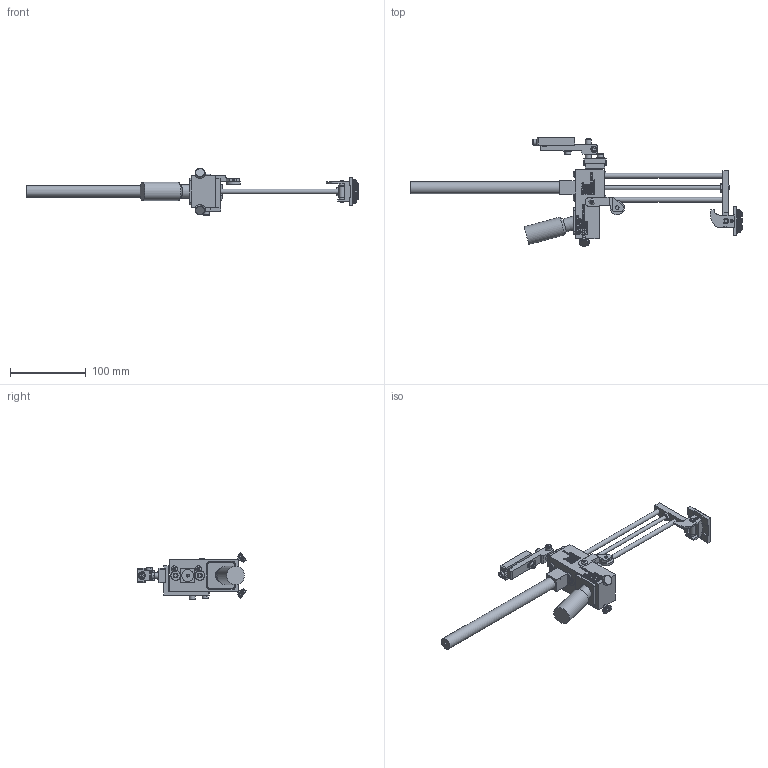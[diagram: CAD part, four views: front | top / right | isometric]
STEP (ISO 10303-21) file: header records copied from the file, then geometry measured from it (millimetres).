
FILE_DESCRIPTION((''),'2;1');
FILE_NAME('C:\Documents and Settings\Ron\My Documents\Inventor\Sprinter Drawing\Machines in Inventor\Model 1010\Type\Ext Str\E4\Brkt\Ext\Model 1010 ES 4 ext w brkt.stp','2009-01-27T12:18:42',('Ron'),(''),'Autodesk Inventor 2008','Autodesk Inventor 2008','');
FILE_SCHEMA(('AUTOMOTIVE_DESIGN { 1 0 10303 214 1 1 1 1 }'));
Length unit declared in the file: inch
Products named in the file (1): Model 1010 ES 4 ext w brkt
Bounding box: 437.46 x 142.74 x 61.82 mm (x, y, z)
Volume: 264464.2 mm3; surface area: 92355.8 mm2
Topology: 385 solids, 385 shells, 6612 faces, 16492 edges, 10230 vertices
Faces by surface type: plane 4582, bspline 1380, cylinder 550, cone 75, torus 21, sphere 4
Full cylindrical faces by diameter (mm): 2.845 x1, 3.175 x1, 3.505 x1, 3.708 x2, 4.064 x2, 4.166 x5, 4.75 x5, 4.775 x2, 4.826 x10, 5.08 x1, 5.156 x3, 6.223 x2, 6.325 x2, 6.35 x2, 6.604 x1, 6.68 x1, 6.858 x2, 7.62 x2, 7.925 x11, 7.938 x1, 9.017 x1, 9.525 x2, 10.312 x4, 10.922 x1, 15.494 x1, 17.526 x1, 19.05 x1, 24.13 x1
Entity records: 206602 total; most frequent: CARTESIAN_POINT 56630, ORIENTED_EDGE 32334, DIRECTION 25259, EDGE_CURVE 16167, VECTOR 12037, LINE 12037, VERTEX_POINT 10120, EDGE_LOOP 7231
